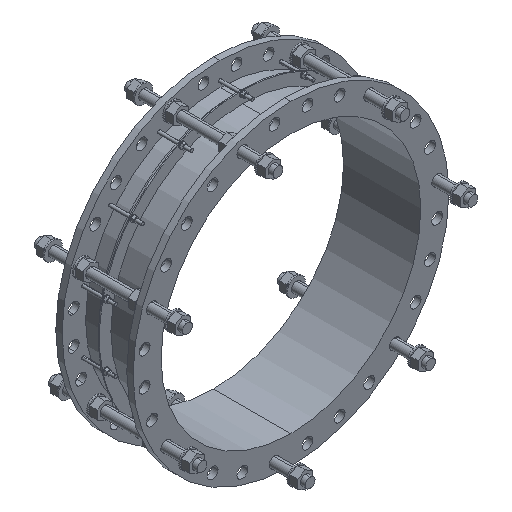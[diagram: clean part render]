
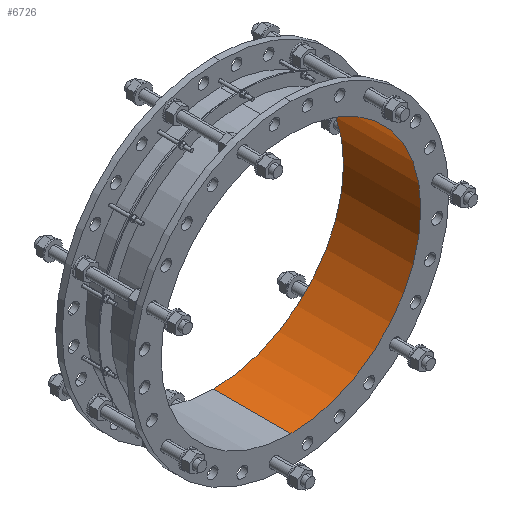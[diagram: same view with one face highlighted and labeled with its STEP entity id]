
A CAD part, isometric view. The second image highlights one B-rep face of the part: STEP entity #6726.
In plain terms, the highlighted cylindrical face has radius 516 mm (diameter 1032 mm), a partial arc.
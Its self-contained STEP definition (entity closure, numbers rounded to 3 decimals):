
#7=DIRECTION('',(0.,-1.,0.));
#8=VECTOR('',#7,307.);
#9=CARTESIAN_POINT('',(0.,0.,-516.));
#10=LINE('',#9,#8);
#11=CARTESIAN_POINT('',(0.,0.,0.));
#12=DIRECTION('',(0.,-1.,0.));
#13=DIRECTION('',(0.,0.,-1.));
#14=AXIS2_PLACEMENT_3D('',#11,#12,#13);
#16=DIRECTION('',(0.,-1.,0.));
#17=VECTOR('',#16,307.);
#18=CARTESIAN_POINT('',(0.,0.,516.));
#19=LINE('',#18,#17);
#2064=CARTESIAN_POINT('',(0.,-307.,0.));
#2065=DIRECTION('',(0.,-1.,0.));
#2066=DIRECTION('',(0.,0.,-1.));
#2067=AXIS2_PLACEMENT_3D('',#2064,#2065,#2066);
#5411=CARTESIAN_POINT('',(0.,0.,-516.));
#5412=CARTESIAN_POINT('',(0.,-307.,-516.));
#5413=VERTEX_POINT('',#5411);
#5414=VERTEX_POINT('',#5412);
#5431=CARTESIAN_POINT('',(0.,0.,516.));
#5432=CARTESIAN_POINT('',(0.,-307.,516.));
#5433=VERTEX_POINT('',#5431);
#5434=VERTEX_POINT('',#5432);
#6713=CARTESIAN_POINT('',(0.,-322.35,0.));
#6714=DIRECTION('',(0.,1.,0.));
#6715=DIRECTION('',(0.,0.,-1.));
#6716=AXIS2_PLACEMENT_3D('',#6713,#6714,#6715);
#6717=CYLINDRICAL_SURFACE('',#6716,516.);
#6718=ORIENTED_EDGE('',*,*,#6702,.F.);
#6720=ORIENTED_EDGE('',*,*,#6719,.T.);
#6721=ORIENTED_EDGE('',*,*,#6706,.T.);
#6723=ORIENTED_EDGE('',*,*,#6722,.F.);
#6724=EDGE_LOOP('',(#6718,#6720,#6721,#6723));
#6725=FACE_OUTER_BOUND('',#6724,.F.);
#6726=ADVANCED_FACE('',(#6725),#6717,.F.);
#15=CIRCLE('',#14,516.);
#2068=CIRCLE('',#2067,516.);
#6702=EDGE_CURVE('',#5413,#5414,#10,.T.);
#6706=EDGE_CURVE('',#5433,#5434,#19,.T.);
#6719=EDGE_CURVE('',#5413,#5433,#15,.T.);
#6722=EDGE_CURVE('',#5414,#5434,#2068,.T.);
